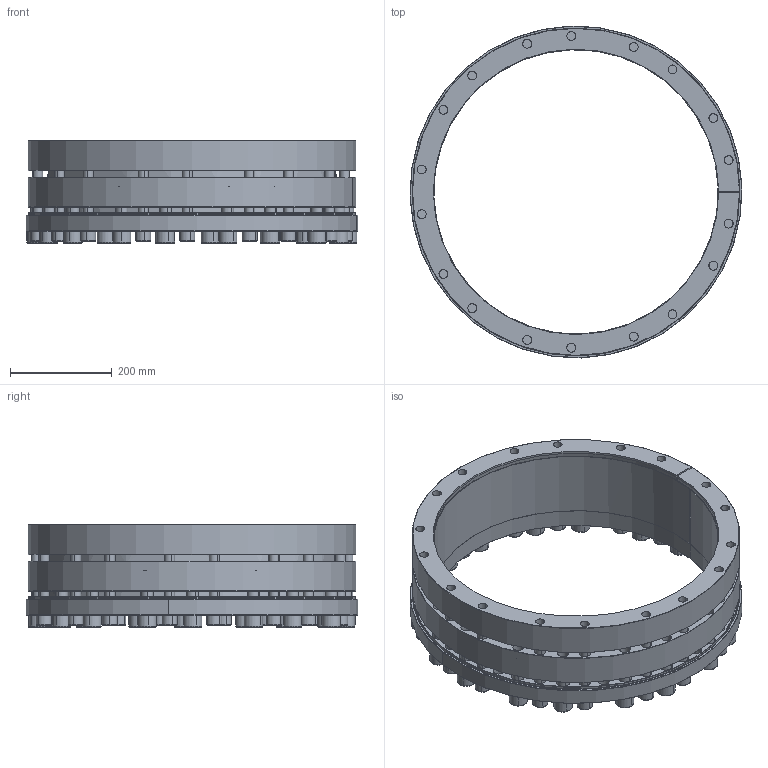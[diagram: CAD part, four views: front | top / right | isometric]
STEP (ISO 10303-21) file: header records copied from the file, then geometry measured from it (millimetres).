
FILE_DESCRIPTION (( 'STEP AP214' ), '1' );
FILE_NAME ('CONEX-P-560x645-P-022.step', '2015-11-30T21:15:31', ( '' ), ( '' ), 'SwSTEP 2.0', 'SolidWorks 2013', '' );
FILE_SCHEMA (( 'AUTOMOTIVE_DESIGN' ));
Length unit declared in the file: millimetre
Products named in the file (1): CONEX-P-560x645-P-022
Bounding box: 653.7 x 653.7 x 202 mm (x, y, z)
Volume: 13396350.6 mm3; surface area: 2194905.1 mm2
Topology: 39 solids, 39 shells, 1234 faces, 2838 edges, 1684 vertices
Faces by surface type: plane 562, cylinder 354, cone 170, torus 148
Entity records: 48648 total; most frequent: DIRECTION 6540, CARTESIAN_POINT 5801, ORIENTED_EDGE 5532, EDGE_CURVE 2766, AXIS2_PLACEMENT_3D 2567, VERTEX_POINT 1684, EDGE_LOOP 1506, VECTOR 1406
